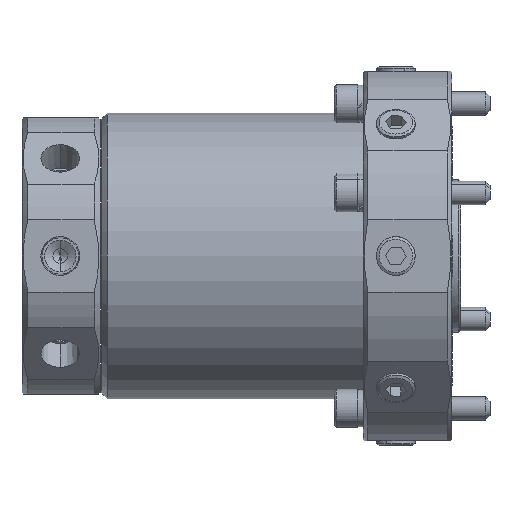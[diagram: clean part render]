
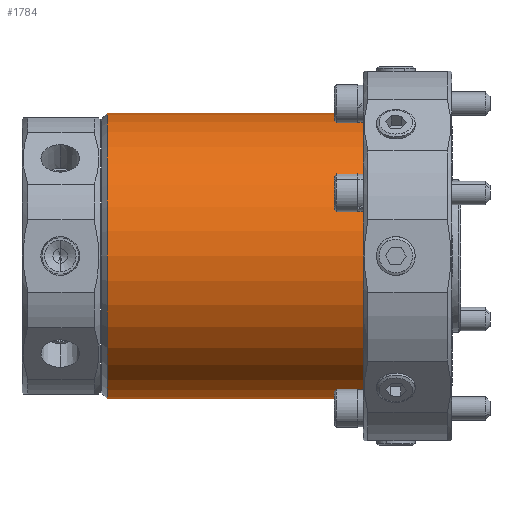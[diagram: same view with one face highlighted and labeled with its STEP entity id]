
A CAD part, left-side view. The second image highlights one B-rep face of the part: STEP entity #1784.
In plain terms, the highlighted cylindrical face has radius 48.5 mm (diameter 97 mm), a partial arc.
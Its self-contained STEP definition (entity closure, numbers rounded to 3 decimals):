
#1727=CARTESIAN_POINT('',(0.0,-2.857,-48.5));
#1728=VERTEX_POINT('',#1727);
#1729=CARTESIAN_POINT('',(0.0,-2.857,48.5));
#1730=VERTEX_POINT('',#1729);
#1731=CARTESIAN_POINT('',(0.0,-2.857,0.0));
#1732=DIRECTION('',(0.0,1.0,0.0));
#1733=DIRECTION('',(0.0,0.0,1.0));
#1734=AXIS2_PLACEMENT_3D('',#1731,#1732,#1733);
#1735=CIRCLE('',#1734,48.5);
#1736=EDGE_CURVE('no 4939',#1728,#1730,#1735,.T.);
#1753=CARTESIAN_POINT('',(0.0,84.143,-48.5));
#1754=VERTEX_POINT('',#1753);
#1755=CARTESIAN_POINT('',(0.0,-2.857,-48.5));
#1756=DIRECTION('',(-0.0,1.0,0.0));
#1757=VECTOR('',#1756,1.0);
#1758=LINE('',#1755,#1757);
#1759=EDGE_CURVE('no 4953',#1728,#1754,#1758,.T.);
#1760=ORIENTED_EDGE('',*,*,#1759,.F.);
#1761=ORIENTED_EDGE('',*,*,#1736,.T.);
#1762=CARTESIAN_POINT('',(0.0,84.143,48.5));
#1763=VERTEX_POINT('',#1762);
#1764=CARTESIAN_POINT('',(0.0,-2.857,48.5));
#1765=DIRECTION('',(0.0,1.0,0.0));
#1766=VECTOR('',#1765,1.0);
#1767=LINE('',#1764,#1766);
#1768=EDGE_CURVE('no 4961',#1730,#1763,#1767,.T.);
#1769=ORIENTED_EDGE('',*,*,#1768,.T.);
#1770=CARTESIAN_POINT('',(0.0,84.143,0.0));
#1771=DIRECTION('',(0.0,-1.0,0.0));
#1772=DIRECTION('',(0.0,0.0,1.0));
#1773=AXIS2_PLACEMENT_3D('',#1770,#1771,#1772);
#1774=CIRCLE('',#1773,48.5);
#1775=EDGE_CURVE('no 4965',#1763,#1754,#1774,.T.);
#1776=ORIENTED_EDGE('',*,*,#1775,.T.);
#1777=EDGE_LOOP('',(#1760,#1761,#1769,#1776));
#1778=FACE_OUTER_BOUND('',#1777,.T.);
#1779=CARTESIAN_POINT('',(0.0,40.14,0.0));
#1780=DIRECTION('',(0.0,1.0,0.0));
#1781=DIRECTION('',(1.0,0.0,0.0));
#1782=AXIS2_PLACEMENT_3D('',#1779,#1780,#1781);
#1783=CYLINDRICAL_SURFACE('',#1782,48.5);
#1784=ADVANCED_FACE('no 4946',(#1778),#1783,.T.);
